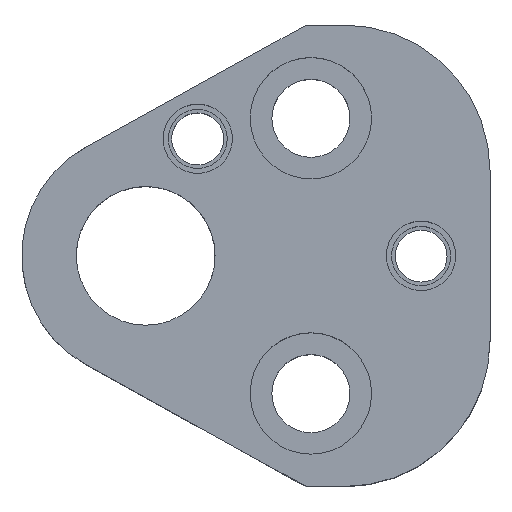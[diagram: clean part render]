
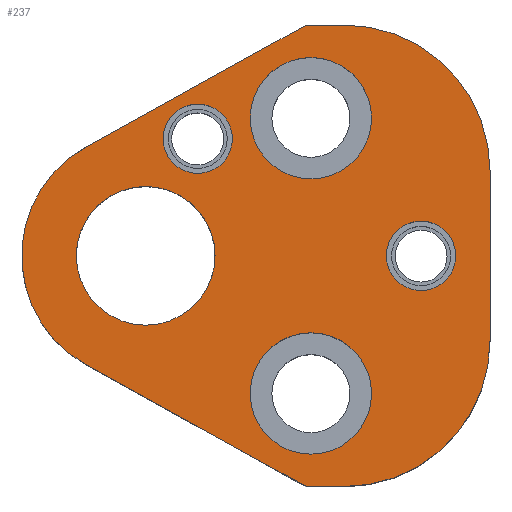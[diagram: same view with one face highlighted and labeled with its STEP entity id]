
A CAD part, top view. The second image highlights one B-rep face of the part: STEP entity #237.
In plain terms, the highlighted planar face has unit normal (0, 0, 1).
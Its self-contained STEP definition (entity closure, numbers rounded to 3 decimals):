
#113=FACE_BOUND('',#341,.T.);
#114=FACE_BOUND('',#342,.T.);
#115=FACE_BOUND('',#343,.T.);
#116=FACE_BOUND('',#344,.T.);
#117=FACE_BOUND('',#345,.T.);
#118=FACE_BOUND('',#346,.T.);
#149=CIRCLE('',#871,16.8);
#151=CIRCLE('',#875,16.8);
#154=CIRCLE('',#882,14.3);
#170=CIRCLE('',#907,7.);
#172=CIRCLE('',#910,7.);
#174=CIRCLE('',#914,7.);
#176=CIRCLE('',#917,7.);
#190=CIRCLE('',#943,4.);
#191=CIRCLE('',#944,4.);
#192=CIRCLE('',#945,4.);
#193=CIRCLE('',#946,4.);
#194=CIRCLE('',#947,8.);
#195=CIRCLE('',#948,8.);
#237=ADVANCED_FACE('',(#113,#114,#115,#116,#117,#118),#261,.T.);
#261=PLANE('',#949);
#341=EDGE_LOOP('',(#511,#512,#513,#514,#515,#516,#517,#518));
#342=EDGE_LOOP('',(#519,#520));
#343=EDGE_LOOP('',(#521,#522));
#344=EDGE_LOOP('',(#523,#524));
#345=EDGE_LOOP('',(#525,#526));
#346=EDGE_LOOP('',(#527,#528));
#511=ORIENTED_EDGE('',*,*,#675,.T.);
#512=ORIENTED_EDGE('',*,*,#654,.T.);
#513=ORIENTED_EDGE('',*,*,#658,.T.);
#514=ORIENTED_EDGE('',*,*,#661,.T.);
#515=ORIENTED_EDGE('',*,*,#664,.T.);
#516=ORIENTED_EDGE('',*,*,#667,.T.);
#517=ORIENTED_EDGE('',*,*,#670,.T.);
#518=ORIENTED_EDGE('',*,*,#679,.T.);
#519=ORIENTED_EDGE('',*,*,#740,.F.);
#520=ORIENTED_EDGE('',*,*,#741,.F.);
#521=ORIENTED_EDGE('',*,*,#742,.F.);
#522=ORIENTED_EDGE('',*,*,#743,.F.);
#523=ORIENTED_EDGE('',*,*,#718,.F.);
#524=ORIENTED_EDGE('',*,*,#714,.F.);
#525=ORIENTED_EDGE('',*,*,#712,.F.);
#526=ORIENTED_EDGE('',*,*,#708,.F.);
#527=ORIENTED_EDGE('',*,*,#744,.T.);
#528=ORIENTED_EDGE('',*,*,#745,.T.);
#581=VERTEX_POINT('',#1228);
#582=VERTEX_POINT('',#1230);
#585=VERTEX_POINT('',#1237);
#587=VERTEX_POINT('',#1243);
#589=VERTEX_POINT('',#1249);
#591=VERTEX_POINT('',#1255);
#593=VERTEX_POINT('',#1261);
#597=VERTEX_POINT('',#1272);
#619=VERTEX_POINT('',#1342);
#620=VERTEX_POINT('',#1343);
#623=VERTEX_POINT('',#1355);
#624=VERTEX_POINT('',#1356);
#639=VERTEX_POINT('',#1410);
#640=VERTEX_POINT('',#1411);
#641=VERTEX_POINT('',#1414);
#642=VERTEX_POINT('',#1415);
#643=VERTEX_POINT('',#1418);
#644=VERTEX_POINT('',#1419);
#654=EDGE_CURVE('',#582,#581,#764,.T.);
#658=EDGE_CURVE('',#581,#585,#149,.T.);
#661=EDGE_CURVE('',#585,#587,#769,.T.);
#664=EDGE_CURVE('',#587,#589,#151,.T.);
#667=EDGE_CURVE('',#589,#591,#773,.T.);
#670=EDGE_CURVE('',#591,#593,#776,.T.);
#675=EDGE_CURVE('',#597,#582,#781,.T.);
#679=EDGE_CURVE('',#593,#597,#154,.T.);
#708=EDGE_CURVE('',#619,#620,#170,.T.);
#712=EDGE_CURVE('',#620,#619,#172,.T.);
#714=EDGE_CURVE('',#623,#624,#174,.T.);
#718=EDGE_CURVE('',#624,#623,#176,.T.);
#740=EDGE_CURVE('',#639,#640,#190,.T.);
#741=EDGE_CURVE('',#640,#639,#191,.T.);
#742=EDGE_CURVE('',#641,#642,#192,.T.);
#743=EDGE_CURVE('',#642,#641,#193,.T.);
#744=EDGE_CURVE('',#643,#644,#194,.T.);
#745=EDGE_CURVE('',#644,#643,#195,.T.);
#764=LINE('',#1229,#817);
#769=LINE('',#1244,#822);
#773=LINE('',#1256,#826);
#776=LINE('',#1262,#829);
#781=LINE('',#1271,#834);
#817=VECTOR('',#973,1.);
#822=VECTOR('',#986,1.);
#826=VECTOR('',#998,1.);
#829=VECTOR('',#1003,1.);
#834=VECTOR('',#1010,1.);
#871=AXIS2_PLACEMENT_3D('',#1238,#979,#980);
#875=AXIS2_PLACEMENT_3D('',#1250,#991,#992);
#882=AXIS2_PLACEMENT_3D('',#1279,#1017,#1018);
#907=AXIS2_PLACEMENT_3D('',#1341,#1079,#1080);
#910=AXIS2_PLACEMENT_3D('',#1350,#1087,#1088);
#914=AXIS2_PLACEMENT_3D('',#1354,#1095,#1096);
#917=AXIS2_PLACEMENT_3D('',#1363,#1103,#1104);
#943=AXIS2_PLACEMENT_3D('',#1409,#1163,#1164);
#944=AXIS2_PLACEMENT_3D('',#1412,#1165,#1166);
#945=AXIS2_PLACEMENT_3D('',#1413,#1167,#1168);
#946=AXIS2_PLACEMENT_3D('',#1416,#1169,#1170);
#947=AXIS2_PLACEMENT_3D('',#1417,#1171,#1172);
#948=AXIS2_PLACEMENT_3D('',#1420,#1173,#1174);
#949=AXIS2_PLACEMENT_3D('',#1421,#1175,#1176);
#973=DIRECTION('',(1.,0.,0.));
#979=DIRECTION('',(0.,0.,1.));
#980=DIRECTION('',(-0.707,0.707,0.));
#986=DIRECTION('',(0.,1.,0.));
#991=DIRECTION('',(0.,0.,1.));
#992=DIRECTION('',(-0.707,-0.707,0.));
#998=DIRECTION('',(-1.,0.,0.));
#1003=DIRECTION('',(-0.875,-0.485,0.));
#1010=DIRECTION('',(0.875,-0.485,0.));
#1017=DIRECTION('',(0.,0.,1.));
#1018=DIRECTION('',(1.,0.,0.));
#1079=DIRECTION('',(0.,0.,1.));
#1080=DIRECTION('',(-1.,0.,0.));
#1087=DIRECTION('',(0.,0.,1.));
#1088=DIRECTION('',(1.,0.,0.));
#1095=DIRECTION('',(0.,0.,1.));
#1096=DIRECTION('',(-1.,0.,0.));
#1103=DIRECTION('',(0.,0.,1.));
#1104=DIRECTION('',(1.,0.,0.));
#1163=DIRECTION('',(0.,0.,1.));
#1164=DIRECTION('',(1.,0.,0.));
#1165=DIRECTION('',(0.,0.,1.));
#1166=DIRECTION('',(-1.,0.,0.));
#1167=DIRECTION('',(0.,0.,1.));
#1168=DIRECTION('',(1.,0.,0.));
#1169=DIRECTION('',(0.,0.,1.));
#1170=DIRECTION('',(-1.,0.,0.));
#1171=DIRECTION('',(0.,0.,-1.));
#1172=DIRECTION('',(-1.,0.,0.));
#1173=DIRECTION('',(0.,0.,-1.));
#1174=DIRECTION('',(1.,0.,0.));
#1175=DIRECTION('',(0.,0.,1.));
#1176=DIRECTION('',(-0.875,0.485,0.));
#1228=CARTESIAN_POINT('',(22.9,-26.6,25.));
#1229=CARTESIAN_POINT('',(18.492,-26.6,25.));
#1230=CARTESIAN_POINT('',(18.492,-26.6,25.));
#1237=CARTESIAN_POINT('',(39.7,-9.8,25.));
#1238=CARTESIAN_POINT('',(22.9,-9.8,25.));
#1243=CARTESIAN_POINT('',(39.7,9.8,25.));
#1244=CARTESIAN_POINT('',(39.7,9.8,25.));
#1249=CARTESIAN_POINT('',(22.9,26.6,25.));
#1250=CARTESIAN_POINT('',(22.9,9.8,25.));
#1255=CARTESIAN_POINT('',(18.492,26.6,25.));
#1256=CARTESIAN_POINT('',(18.492,26.6,25.));
#1261=CARTESIAN_POINT('',(-6.933,12.507,25.));
#1262=CARTESIAN_POINT('',(18.492,26.6,25.));
#1271=CARTESIAN_POINT('',(18.492,-26.6,25.));
#1272=CARTESIAN_POINT('',(-6.933,-12.507,25.));
#1279=CARTESIAN_POINT('',(0.,0.,25.));
#1341=CARTESIAN_POINT('',(19.05,-15.87,25.));
#1342=CARTESIAN_POINT('',(19.05,-22.87,25.));
#1343=CARTESIAN_POINT('',(19.05,-8.87,25.));
#1350=CARTESIAN_POINT('',(19.05,-15.87,25.));
#1354=CARTESIAN_POINT('',(19.05,15.87,25.));
#1355=CARTESIAN_POINT('',(19.05,8.87,25.));
#1356=CARTESIAN_POINT('',(19.05,22.87,25.));
#1363=CARTESIAN_POINT('',(19.05,15.87,25.));
#1409=CARTESIAN_POINT('',(31.75,0.,25.));
#1410=CARTESIAN_POINT('',(31.75,4.,25.));
#1411=CARTESIAN_POINT('',(31.75,-4.,25.));
#1412=CARTESIAN_POINT('',(31.75,0.,25.));
#1413=CARTESIAN_POINT('',(6.,13.5,25.));
#1414=CARTESIAN_POINT('',(6.,17.5,25.));
#1415=CARTESIAN_POINT('',(6.,9.5,25.));
#1416=CARTESIAN_POINT('',(6.,13.5,25.));
#1417=CARTESIAN_POINT('',(0.,0.,25.));
#1418=CARTESIAN_POINT('',(0.,8.,25.));
#1419=CARTESIAN_POINT('',(0.,-8.,25.));
#1420=CARTESIAN_POINT('',(0.,0.,25.));
#1421=CARTESIAN_POINT('',(-6.933,-12.507,25.));
